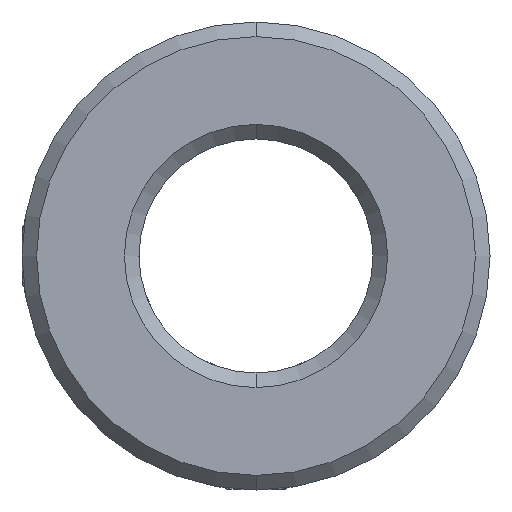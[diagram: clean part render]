
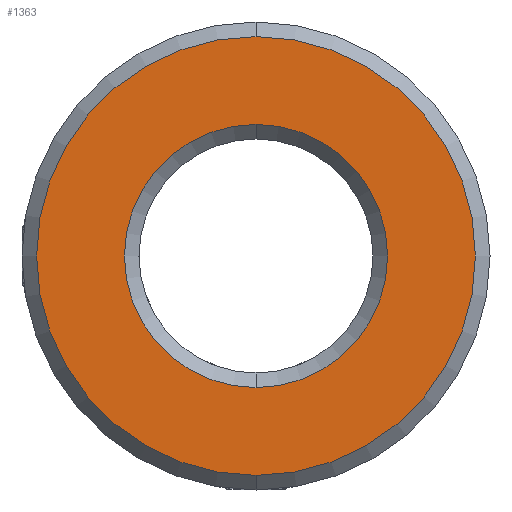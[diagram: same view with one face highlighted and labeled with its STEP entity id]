
A CAD part, front view. The second image highlights one B-rep face of the part: STEP entity #1363.
In plain terms, the highlighted planar face has unit normal (0, -1, 0).
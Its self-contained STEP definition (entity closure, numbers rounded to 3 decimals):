
#15 = ORIENTED_EDGE ( 'NONE', *, *, #3466, .T. ) ;
#184 = FACE_OUTER_BOUND ( 'NONE', #1803, .T. ) ;
#213 = FACE_BOUND ( 'NONE', #995, .T. ) ;
#350 = CIRCLE ( 'NONE', #3180, 7.5 ) ;
#450 = CIRCLE ( 'NONE', #2877, 4.5 ) ;
#495 = ORIENTED_EDGE ( 'NONE', *, *, #950, .T. ) ;
#670 = CARTESIAN_POINT ( 'NONE',  ( -10.188, -12.277, 0.046 ) ) ;
#711 = PLANE ( 'NONE',  #1582 ) ;
#825 = DIRECTION ( 'NONE',  ( 0., 0., 1. ) ) ;
#826 = DIRECTION ( 'NONE',  ( 0., 1., 0. ) ) ;
#950 = EDGE_CURVE ( 'NONE', #2668, #2599, #1427, .T. ) ;
#973 = DIRECTION ( 'NONE',  ( 0., -1., 0. ) ) ;
#992 = CARTESIAN_POINT ( 'NONE',  ( -10.188, -12.277, -4.454 ) ) ;
#995 = EDGE_LOOP ( 'NONE', ( #3578, #2686 ) ) ;
#1363 = ADVANCED_FACE ( 'NONE', ( #184, #213 ), #711, .F. ) ;
#1399 = DIRECTION ( 'NONE',  ( 0., 0., 1. ) ) ;
#1427 = CIRCLE ( 'NONE', #3390, 7.5 ) ;
#1569 = DIRECTION ( 'NONE',  ( 0., 1., 0. ) ) ;
#1574 = CARTESIAN_POINT ( 'NONE',  ( -10.188, -12.277, 7.546 ) ) ;
#1582 = AXIS2_PLACEMENT_3D ( 'NONE', #3185, #1569, #2923 ) ;
#1593 = AXIS2_PLACEMENT_3D ( 'NONE', #3210, #2868, #1804 ) ;
#1715 = EDGE_CURVE ( 'NONE', #1722, #2818, #450, .T. ) ;
#1722 = VERTEX_POINT ( 'NONE', #2226 ) ;
#1803 = EDGE_LOOP ( 'NONE', ( #495, #15 ) ) ;
#1804 = DIRECTION ( 'NONE',  ( 0., 0., 1. ) ) ;
#1927 = DIRECTION ( 'NONE',  ( 0., -1., 0. ) ) ;
#2215 = DIRECTION ( 'NONE',  ( 0., 0., 1. ) ) ;
#2226 = CARTESIAN_POINT ( 'NONE',  ( -10.188, -12.277, 4.546 ) ) ;
#2402 = CARTESIAN_POINT ( 'NONE',  ( -10.188, -12.277, -7.454 ) ) ;
#2480 = CARTESIAN_POINT ( 'NONE',  ( -10.188, -12.277, 0.046 ) ) ;
#2599 = VERTEX_POINT ( 'NONE', #2402 ) ;
#2668 = VERTEX_POINT ( 'NONE', #1574 ) ;
#2686 = ORIENTED_EDGE ( 'NONE', *, *, #1715, .T. ) ;
#2752 = EDGE_CURVE ( 'NONE', #2818, #1722, #3172, .T. ) ;
#2818 = VERTEX_POINT ( 'NONE', #992 ) ;
#2868 = DIRECTION ( 'NONE',  ( 0., 1., 0. ) ) ;
#2877 = AXIS2_PLACEMENT_3D ( 'NONE', #3301, #826, #1399 ) ;
#2923 = DIRECTION ( 'NONE',  ( 0., 0., 1. ) ) ;
#3172 = CIRCLE ( 'NONE', #1593, 4.5 ) ;
#3180 = AXIS2_PLACEMENT_3D ( 'NONE', #2480, #1927, #825 ) ;
#3185 = CARTESIAN_POINT ( 'NONE',  ( -10.188, -12.277, 0.046 ) ) ;
#3210 = CARTESIAN_POINT ( 'NONE',  ( -10.188, -12.277, 0.046 ) ) ;
#3301 = CARTESIAN_POINT ( 'NONE',  ( -10.188, -12.277, 0.046 ) ) ;
#3390 = AXIS2_PLACEMENT_3D ( 'NONE', #670, #973, #2215 ) ;
#3466 = EDGE_CURVE ( 'NONE', #2599, #2668, #350, .T. ) ;
#3578 = ORIENTED_EDGE ( 'NONE', *, *, #2752, .T. ) ;
